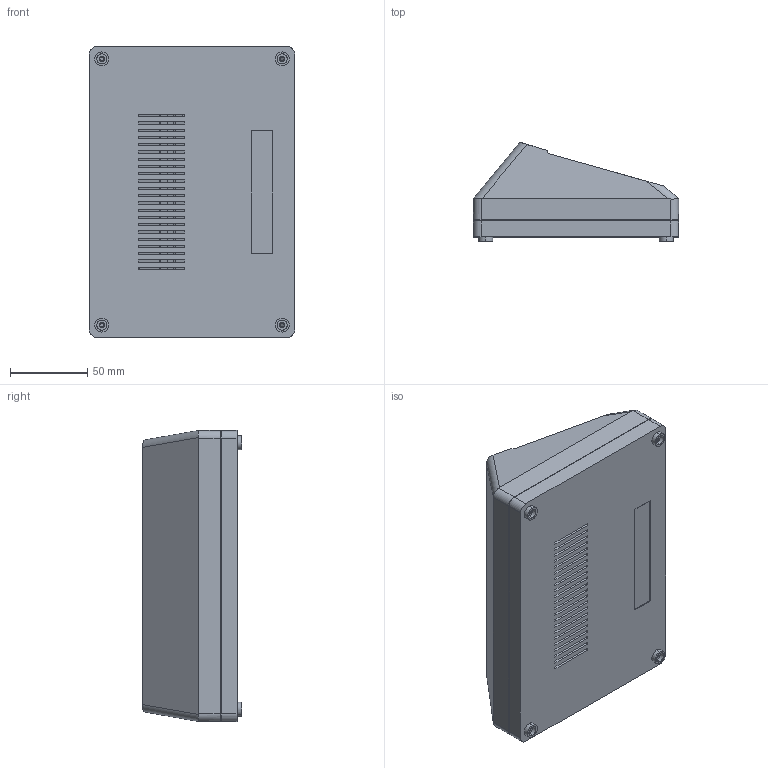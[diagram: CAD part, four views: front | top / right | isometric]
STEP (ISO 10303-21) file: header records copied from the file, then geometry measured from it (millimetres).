
FILE_DESCRIPTION (( 'STEP AP203' ), '1' );
FILE_NAME ('DT-255.STEP', '2021-01-11T06:00:01', ( '' ), ( '' ), 'SwSTEP 2.0', 'SolidWorks 2020', '' );
FILE_SCHEMA (( 'CONFIG_CONTROL_DESIGN' ));
Length unit declared in the file: millimetre
Products named in the file (4): DT-255; DT-255-P-1-11157; DT-255-P-3-11159; DT-255-P-2-11158
Assembly tree (3 placements, depth 2):
  DT-255
    DT-255-P-2-11158
    DT-255-P-1-11157
    DT-255-P-3-11159
Bounding box: 132.7 x 64.08 x 188.2 mm (x, y, z)
Volume: 217572 mm3; surface area: 162001.4 mm2
Topology: 3 solids, 3 shells, 481 faces, 1188 edges, 780 vertices
Faces by surface type: plane 229, cylinder 212, torus 24, bspline 8, cone 8
Entity records: 15426 total; most frequent: CARTESIAN_POINT 3281, DIRECTION 2498, ORIENTED_EDGE 2376, EDGE_CURVE 1188, AXIS2_PLACEMENT_3D 911, VERTEX_POINT 780, VECTOR 676, LINE 676
